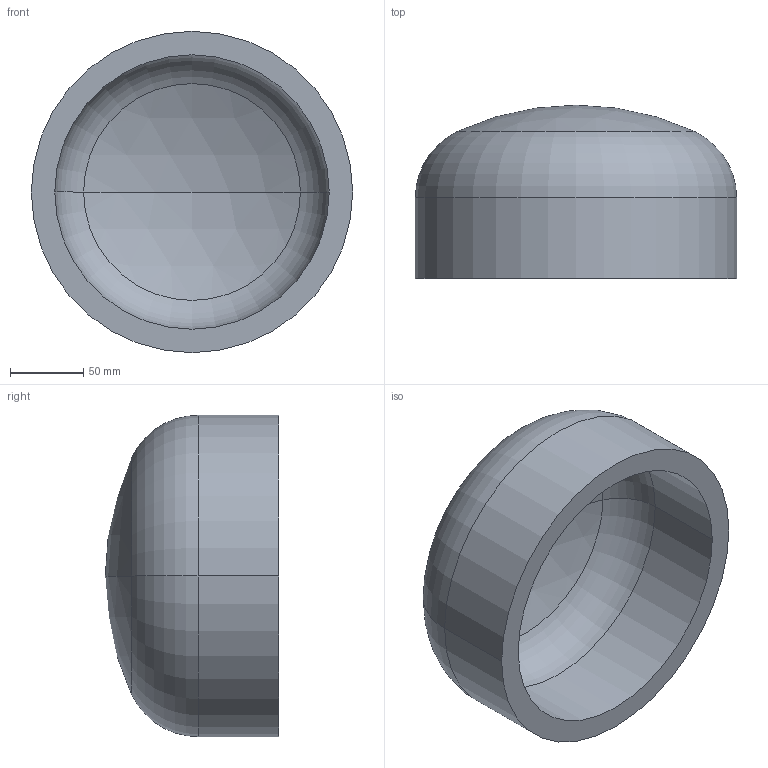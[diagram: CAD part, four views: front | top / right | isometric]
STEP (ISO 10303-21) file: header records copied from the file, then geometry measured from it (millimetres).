
FILE_DESCRIPTION (( 'STEP AP203' ), '1' );
FILE_NAME ('DIN 28013 Korbbogenform_-_Boden DIN 28013 - 219,1 x 55 - I - s=16.step', '2016-07-01T07:42:32', ( '' ), ( '' ), 'SwSTEP 2.0', 'SolidWorks 2013', '' );
FILE_SCHEMA (( 'CONFIG_CONTROL_DESIGN' ));
Length unit declared in the file: millimetre
Products named in the file (1): DIN 28013 Korbbogenform_-_Boden DIN 28013 - 219,1 x 55 - I - s=16
Bounding box: 219.1 x 118.19 x 219.1 mm (x, y, z)
Volume: 1324699.8 mm3; surface area: 176332.5 mm2
Topology: 1 solids, 1 shells, 13 faces, 24 edges, 14 vertices
Faces by surface type: torus 4, cylinder 4, sphere 4, plane 1
Entity records: 407 total; most frequent: DIRECTION 72, CARTESIAN_POINT 52, ORIENTED_EDGE 48, AXIS2_PLACEMENT_3D 34, EDGE_CURVE 24, CIRCLE 20, VERTEX_POINT 14, EDGE_LOOP 14
